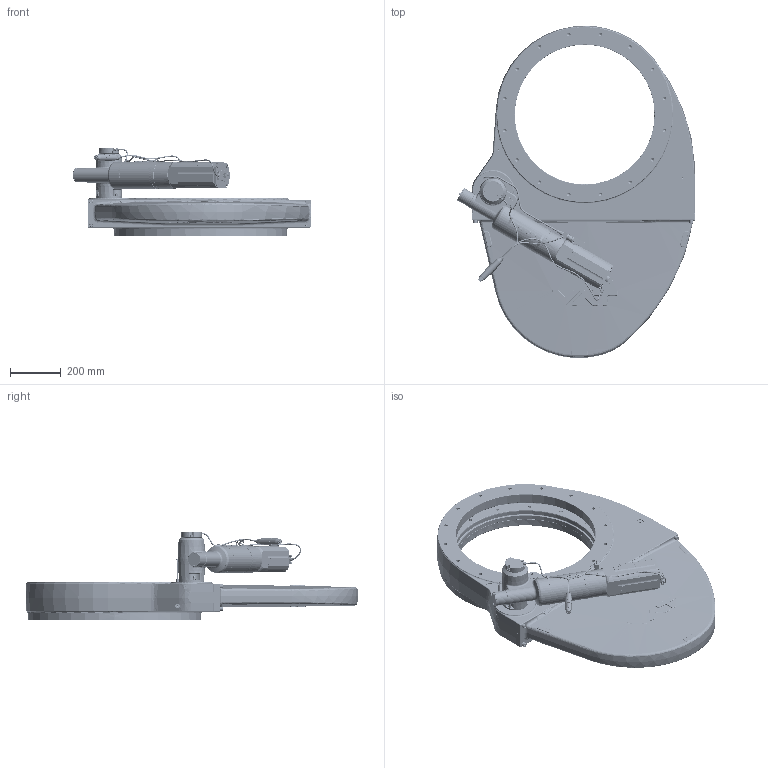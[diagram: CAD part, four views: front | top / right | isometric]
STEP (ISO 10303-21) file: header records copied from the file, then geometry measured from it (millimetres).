
FILE_DESCRIPTION(/* description */ (''),/* implementation_level */ '2;1');
FILE_NAME(/* name */ '1043737892_203.stp',/* time_stamp */ '2016-12-20T15:29:00+01:00',/* author */ (''),/* organization */ (''),/* preprocessor_version */ 'ST-DEVELOPER v15',/* originating_system */ 'SIEMENS PLM Software NX 9.0',/* authorisation */ '');
FILE_SCHEMA (('AP203_CONFIGURATION_CONTROLLED_3D_DESIGN_OF_MECHANICAL_PARTS_AND_ASSEMBLIES_MIM_LF { 1 0 10303 403 2 1 2}'));
Products named in the file (76): 73662-01.1; 77379-01.1; N-6016-478.2; n-6134-406.1; n-6005-441.1; 585381; 555917; n-8504-002; n-8504-202.1; 343164.1; 740276; 207377_1.1; 207377.1; n-6195-409.1; 714893; 714885; 714638; 714619; 714560; 574009; 573994; 500522_191591ID; 561205_23612ID; 497017; 718628; 565225; 585268; 716953; 534952; 310276.1; 485818; 701511; 714842; n-6121-027.2; N-6121-017.2; N-6072-439.1; 587357; n-7016-010; 358909.3; 328911.1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
Assembly tree (140 placements, depth 6):
  754558
    555270_MODEL
      555267_MODEL
        561205_23612ID
      N-6091-505.1  x10
      n-7636-210.1  x2
      566576
    555284
    555290_MODEL
      555287_23616ID
    351304.1  x4
    219875.2  x4
    224836.1  x24
    754704_MODEL
      255801.2
      n-6053-411.2  x3
      501132  x2
      714686
      n-6134-408  x3
      n-6005-437.1  x4
      n-6091-460.1  x3
      702099  x3
      n-6005-439.1  x2
      500829
      445801_MODEL
        500522_191591ID
      n-6005-473.1  x3
      500751
      427429  x4
      385780
      328911.1
      358909.3
      574019_MODEL
        573994
        574009
      n-7016-010
      587357
      714563_MODEL
        714560
        714619
        714638
        714885
        714893
        n-6195-409.1  x2
        n-6005-439.1
      N-6072-439.1
      N-6121-017.2
      n-6121-027.2  x2
      714842
      701511
      740272_MODEL
        207377.1  x2
        207377_1.1
        740276
      485818
      310276.1
      754613_MODEL
        343164.1
        727937_MODEL
          555917
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Bounding box: 936.09 x 1304.45 x 348.9 mm (x, y, z)
Volume: 36368158.5 mm3; surface area: 4695512.1 mm2
Topology: 226 solids, 227 shells, 6089 faces, 14687 edges, 9229 vertices
Faces by surface type: plane 2402, cylinder 1579, cone 701, bspline 604, torus 435, extrusion 294, sphere 67, revolution 7
Full cylindrical faces by diameter (mm): 1 x1, 1.5 x8, 1.56 x1, 1.6 x2, 1.66 x7, 1.991 x1, 2 x3, 2.115 x4, 2.4 x1, 2.5 x6, 2.8 x1, 3 x19, 3.26 x8, 3.3 x59, 3.5 x6, 3.591 x1, 3.7 x1, 3.8 x1, 3.962 x2, 3.988 x2, 4 x36, 4.16 x1, 4.2 x8, 4.3 x1, 4.5 x7, 4.96 x6, 4.985 x3, 5 x24, 5.1 x3, 5.5 x3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
Entity records: 188614 total; most frequent: CARTESIAN_POINT 68619, ORIENTED_EDGE 21240, DIRECTION 20604, EDGE_CURVE 10620, AXIS2_PLACEMENT_3D 8393, VERTEX_POINT 7486, EDGE_LOOP 6943, ADVANCED_FACE 5070
